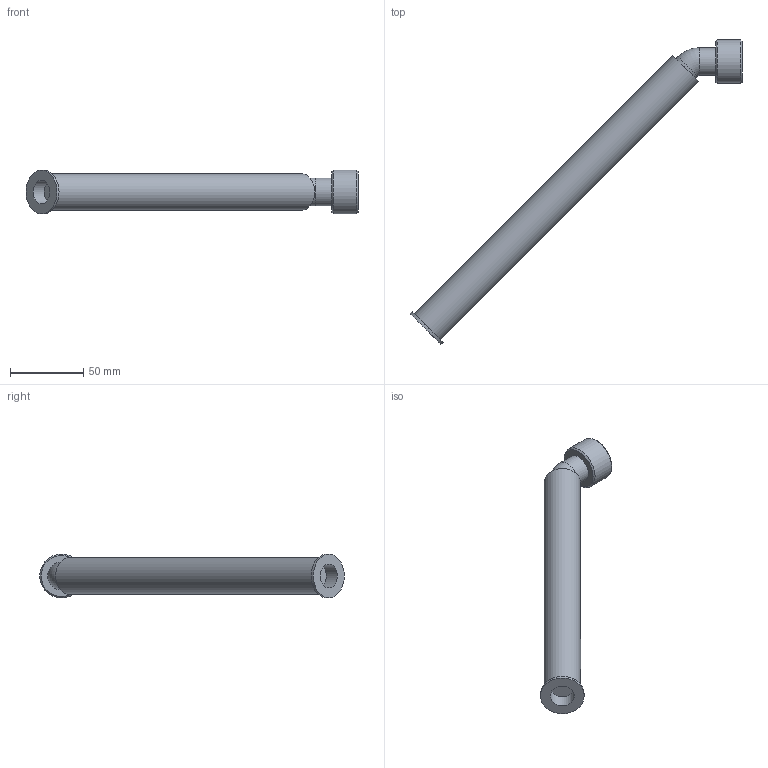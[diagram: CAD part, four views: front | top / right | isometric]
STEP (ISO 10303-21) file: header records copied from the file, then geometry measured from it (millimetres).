
FILE_DESCRIPTION( ( 'STEP AP203' ), '1' );
FILE_NAME( 'C:/Temp/Ganter_Step_05_03_2020/data/3_5/gn880_1/gn880_1_ans_abl/gn_880_1_b/Connector piece with drain hose GN 880.1-26-B-250-T.stp', '2020-03-12T13:42:31', ( 'License CC BY-ND 4.0' ), ( 'CADENAS' ), ' ', 'PARTsolutions', ' ' );
FILE_SCHEMA( ( 'CONFIG_CONTROL_DESIGN' ) );
Length unit declared in the file: millimetre
Products named in the file (5): Connector piece with drain hose GN 880.1-26-B-250-T; _Anschlussstueck mit Ablassschlauch GN 880.1-26-B-250-T_a; _Anschlussstueck mit Ablassschlauch GN 880.1-26-B-250-T_s; _Anschlussstueck mit Ablassschlauch GN 880.1-26-B-250-T_dk; _Anschlussstueck mit Ablassschlauch GN 880.1-26-B-250-T_dk2
Assembly tree (4 placements, depth 2):
  Connector piece with drain hose GN 880.1-26-B-250-T
    _Anschlussstueck mit Ablassschlauch GN 880.1-26-B-250-T_a
    _Anschlussstueck mit Ablassschlauch GN 880.1-26-B-250-T_s
    _Anschlussstueck mit Ablassschlauch GN 880.1-26-B-250-T_dk
    _Anschlussstueck mit Ablassschlauch GN 880.1-26-B-250-T_dk2
Bounding box: 227.34 x 208.58 x 30 mm (x, y, z)
Volume: 64185.7 mm3; surface area: 47985.6 mm2
Topology: 4 solids, 4 shells, 45 faces, 71 edges, 45 vertices
Faces by surface type: plane 19, cylinder 18, torus 5, cone 3
Full cylindrical faces by diameter (mm): 11.5 x1, 12.9 x1, 13 x2, 16.4 x1, 17 x2, 19 x6, 22 x1, 24.376 x1, 25 x1, 30 x2
Entity records: 1062 total; most frequent: DIRECTION 186, CARTESIAN_POINT 137, AXIS2_PLACEMENT_3D 93, EDGE_LOOP 86, ORIENTED_EDGE 86, FACE_OUTER_BOUND 68, ADVANCED_FACE 45, VERTEX_POINT 44
